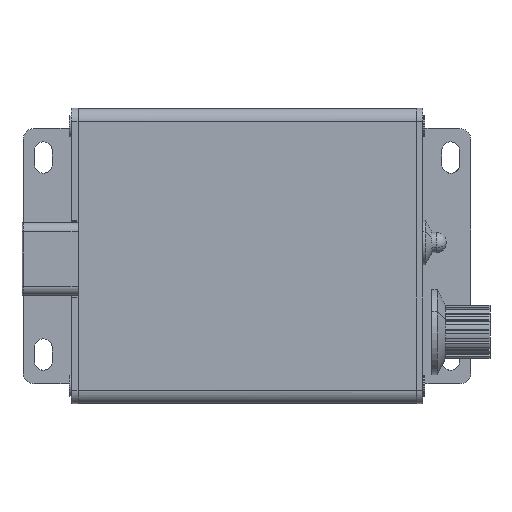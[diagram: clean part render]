
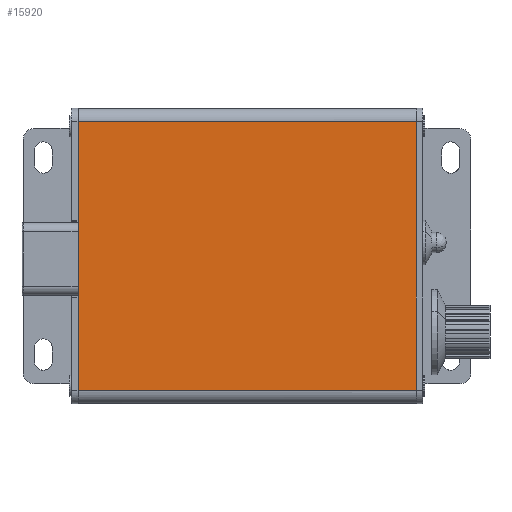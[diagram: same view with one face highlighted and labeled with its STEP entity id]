
A CAD part, top view. The second image highlights one B-rep face of the part: STEP entity #15920.
In plain terms, the highlighted planar face has unit normal (0, 0, 1).
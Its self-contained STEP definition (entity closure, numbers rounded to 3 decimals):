
#15907=AXIS2_PLACEMENT_3D('Plane Axis2P3D',#15904,#15905,#15906) ;
#11375=CARTESIAN_POINT('Vertex',(0.,63.,27.)) ;
#12726=CARTESIAN_POINT('Vertex',(0.,3.,27.)) ;
#12729=CARTESIAN_POINT('Line Origine',(0.,33.,27.)) ;
#13736=CARTESIAN_POINT('Vertex',(75.5,63.,27.)) ;
#13746=CARTESIAN_POINT('Line Origine',(37.75,63.,27.)) ;
#15889=CARTESIAN_POINT('Vertex',(75.5,3.,27.)) ;
#15892=CARTESIAN_POINT('Line Origine',(37.75,3.,27.)) ;
#15904=CARTESIAN_POINT('Axis2P3D Location',(37.75,33.,27.)) ;
#15909=CARTESIAN_POINT('Line Origine',(75.5,33.,27.)) ;
#12730=DIRECTION('Vector Direction',(0.,-1.,0.)) ;
#13747=DIRECTION('Vector Direction',(1.,0.,0.)) ;
#15893=DIRECTION('Vector Direction',(-1.,0.,0.)) ;
#15905=DIRECTION('Axis2P3D Direction',(0.,0.,1.)) ;
#15906=DIRECTION('Axis2P3D XDirection',(1.,0.,0.)) ;
#15910=DIRECTION('Vector Direction',(0.,1.,0.)) ;
#12731=VECTOR('Line Direction',#12730,1.) ;
#13748=VECTOR('Line Direction',#13747,1.) ;
#15894=VECTOR('Line Direction',#15893,1.) ;
#15911=VECTOR('Line Direction',#15910,1.) ;
#15915=ORIENTED_EDGE('',*,*,#12733,.T.) ;
#15916=ORIENTED_EDGE('',*,*,#15896,.F.) ;
#15917=ORIENTED_EDGE('',*,*,#15913,.T.) ;
#15918=ORIENTED_EDGE('',*,*,#13750,.F.) ;
#15920=ADVANCED_FACE('\X2\FF8EFF9EFF83FF9EFF68FF70\X0\.2',(#15919),#15908,.T.) ;
#12733=EDGE_CURVE('',#11376,#12727,#12732,.T.) ;
#13750=EDGE_CURVE('',#11376,#13737,#13749,.T.) ;
#15896=EDGE_CURVE('',#15890,#12727,#15895,.T.) ;
#15913=EDGE_CURVE('',#15890,#13737,#15912,.T.) ;
#15914=EDGE_LOOP('',(#15915,#15916,#15917,#15918)) ;
#15919=FACE_OUTER_BOUND('',#15914,.T.) ;
#12732=LINE('Line',#12729,#12731) ;
#13749=LINE('Line',#13746,#13748) ;
#15895=LINE('Line',#15892,#15894) ;
#15912=LINE('Line',#15909,#15911) ;
#15908=PLANE('',#15907) ;
#11376=VERTEX_POINT('',#11375) ;
#12727=VERTEX_POINT('',#12726) ;
#13737=VERTEX_POINT('',#13736) ;
#15890=VERTEX_POINT('',#15889) ;
